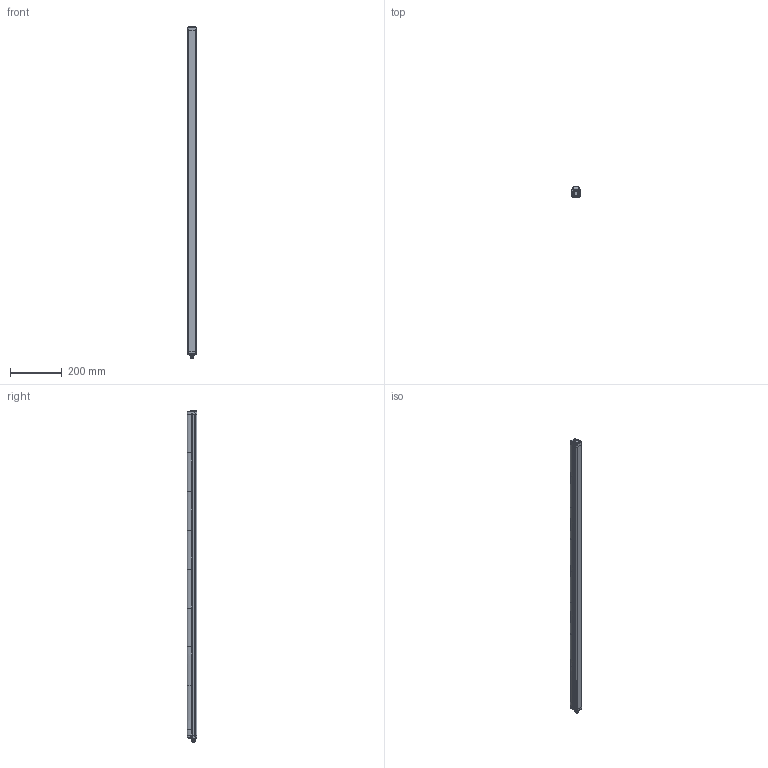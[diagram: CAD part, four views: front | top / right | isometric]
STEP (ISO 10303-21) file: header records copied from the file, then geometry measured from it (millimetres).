
FILE_DESCRIPTION(/* description */ (''),/* implementation_level */ '2;1');
FILE_NAME(/* name */ 'DSD-0164.stp',/* time_stamp */ '2020-07-16T11:25:00+02:00',/* author */ (''),/* organization */ (''),/* preprocessor_version */ 'ST-DEVELOPER v16.7',/* originating_system */ 'SIEMENS PLM Software NX 12.0',/* authorisation */ '');
FILE_SCHEMA (('AUTOMOTIVE_DESIGN { 1 0 10303 214 3 1 1 1 }'));
Products named in the file (1): AP025816_00_1-DSD-0164
Bounding box: 32.3 x 36.9 x 1283.34 mm (x, y, z)
Volume: 1281662.5 mm3; surface area: 299253.4 mm2
Topology: 12 solids, 716 shells, 1638 faces, 5126 edges, 4028 vertices
Faces by surface type: cylinder 608, bspline 561, plane 378, sphere 54, cone 29, torus 8
Full cylindrical faces by diameter (mm): 1 x10, 1.5 x6, 2 x6, 2.05 x4, 2.5 x12, 2.7 x10, 2.9 x6, 3 x12, 3.4 x6, 3.6 x12, 4.7 x2, 5 x10, 5.3 x2, 7.5 x1, 8 x1, 8.2 x1, 9.3 x1, 9.5 x1, 9.55 x1, 10.5 x1, 11 x2, 12 x12, 13.97 x1, 14.3 x1, 16 x2
Entity records: 84545 total; most frequent: CARTESIAN_POINT 35796, ORIENTED_EDGE 6978, DIRECTION 5983, EDGE_CURVE 4915, VERTEX_POINT 4024, AXIS2_PLACEMENT_3D 2335, EDGE_LOOP 1875, PRESENTATION_STYLE_ASSIGNMENT 1646
